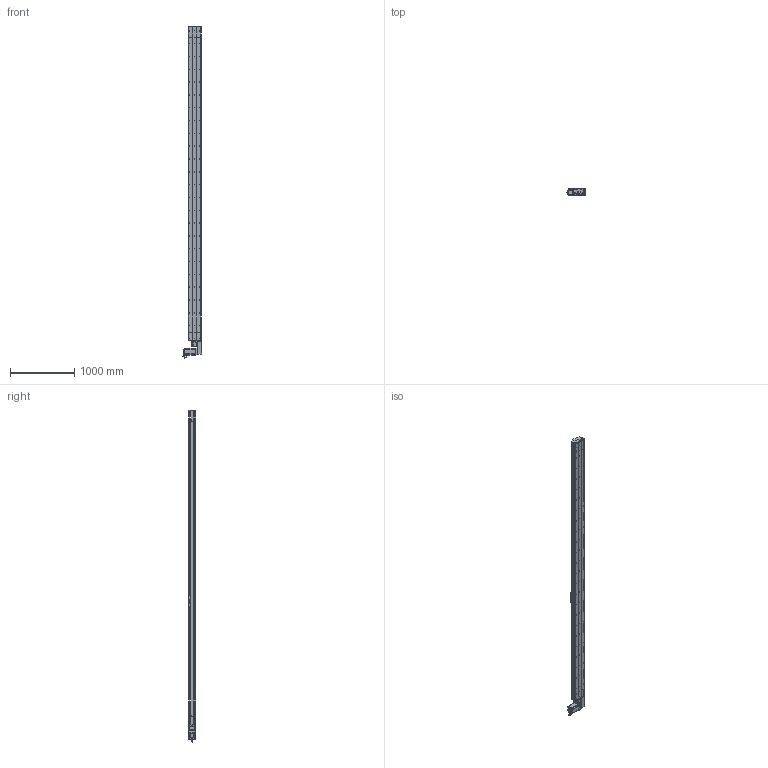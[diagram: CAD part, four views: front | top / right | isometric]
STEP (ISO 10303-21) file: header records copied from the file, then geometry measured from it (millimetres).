
FILE_DESCRIPTION (( 'STEP AP214' ), '1' );
FILE_NAME ('D20 TBH LH S4600.STEP', '2010-07-01T09:35:27', ( 'Conseil Régional Haute-Normandie' ), ( 'Conseil Régional Haute-Normandie' ), 'SwSTEP 2.0', 'SolidWorks 2010', '' );
FILE_SCHEMA (( 'AUTOMOTIVE_DESIGN' ));
Length unit declared in the file: millimetre
Products named in the file (40): tail D20_Default; vis M8 L12_Default; couvercle head D20_Default; rail head D20; Conecteur2_Default; codeur 110BLDC170A-630x; corps 110BLDC170A-630x; Conecteur_Default; Plaque racord D20LH_Default; vis M5 L5_Default; Renvoi LH D20_Default; poulie head D20_Default; cache D20_Default; avant 110BLDC170A-630x; cache arbre D20_Default; couroie_Default; vis M5 L70_Default; Moteur motionking 110BLDC170A-640x; plaque de  bout head D20B LH_Default; clavette; corpl tail D20_Default; vis M5 L12_Default; couvercle tail D20_Default; rail tail D20; vis M5 L25_Default; tete d''axe poulie D20B; Couroie tail D20_Default; poulie tail D20_Default; vis M5 L8 90°_Default; plaque de  bout tail D20_Default; corpl head D20_Default; head LH_Default; guide D20B; Chariot D20B; chariot D20B_Default; rail + couroie  D20 S4600; couvercle D20 S4600_Default; corp D20 S4600_Default; Course B L4600_Default; D20 TBH LH S4600
Assembly tree (71 placements, depth 4):
  D20 TBH LH S4600
    chariot D20B_Default
      vis M5 L12_Default  x4
      guide D20B  x2
      Chariot D20B
    head LH_Default
      rail head D20
      vis M5 L25_Default  x2
      vis M5 L12_Default  x10
      vis M8 L12_Default  x4
      corpl head D20_Default
      couvercle head D20_Default
      Renvoi LH D20_Default
      cache D20_Default  x2
      vis M5 L5_Default  x4
      vis M5 L70_Default  x4
      cache arbre D20_Default
      plaque de  bout head D20B LH_Default
      Moteur motionking 110BLDC170A-640x
        Conecteur_Default
        avant 110BLDC170A-630x
        clavette
        codeur 110BLDC170A-630x
        corps 110BLDC170A-630x
        Conecteur2_Default
      couroie_Default
      poulie head D20_Default
      Plaque racord D20LH_Default
    Course B L4600_Default
      couvercle D20 S4600_Default
      rail + couroie  D20 S4600
      corp D20 S4600_Default
    tail D20_Default
      vis M5 L8 90°_Default  x2
      vis M5 L25_Default  x2
      Couroie tail D20_Default
      corpl tail D20_Default
      vis M5 L12_Default  x4
      couvercle tail D20_Default
      tete d''axe poulie D20B
      poulie tail D20_Default
      rail tail D20
      plaque de  bout tail D20_Default
Bounding box: 304.2 x 115.7 x 5180 mm (x, y, z)
Volume: 38034800.3 mm3; surface area: 9558977.8 mm2
Topology: 95 solids, 95 shells, 2995 faces, 7851 edges, 5085 vertices
Faces by surface type: plane 1664, cylinder 1007, bspline 136, cone 99, torus 89
Entity records: 99974 total; most frequent: CARTESIAN_POINT 33185, ORIENTED_EDGE 12358, DIRECTION 11510, EDGE_CURVE 6179, VERTEX_POINT 4071, AXIS2_PLACEMENT_3D 3860, VECTOR 3790, LINE 3790
